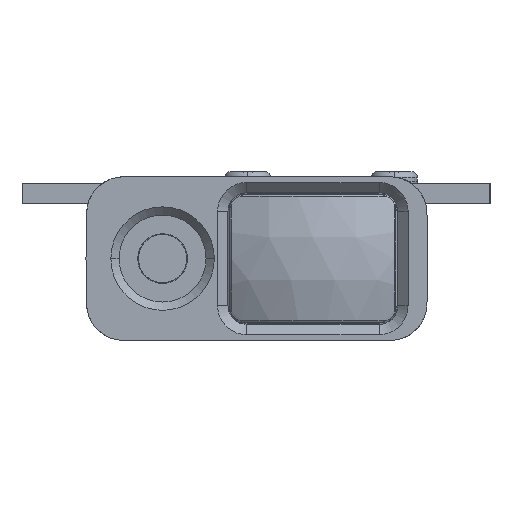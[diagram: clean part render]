
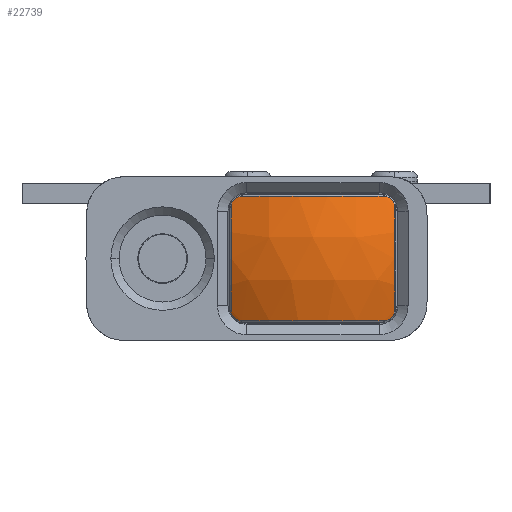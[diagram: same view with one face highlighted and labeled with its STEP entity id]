
A CAD part, left-side view. The second image highlights one B-rep face of the part: STEP entity #22739.
In plain terms, the highlighted spherical face has radius 14.385 mm.
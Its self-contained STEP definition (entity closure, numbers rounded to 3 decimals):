
#22206=CARTESIAN_POINT('',(14.078,-4.868,
-36.396));
#22207=CARTESIAN_POINT('',(14.134,-4.868,
-36.371));
#22208=CARTESIAN_POINT('',(14.244,-4.856,
-36.325));
#22209=CARTESIAN_POINT('',(14.398,-4.807,
-36.271));
#22210=CARTESIAN_POINT('',(14.538,-4.73,
-36.232));
#22211=CARTESIAN_POINT('',(14.66,-4.629,
-36.21));
#22212=CARTESIAN_POINT('',(14.759,-4.506,
-36.206));
#22213=CARTESIAN_POINT('',(14.833,-4.367,
-36.218));
#22214=CARTESIAN_POINT('',(14.878,-4.216,
-36.248));
#22215=CARTESIAN_POINT('',(14.889,-4.111,
-36.278));
#22216=CARTESIAN_POINT('',(14.889,-4.056,
-36.296));
#22218=CARTESIAN_POINT('',(14.889,0.,
-24.063));
#22219=DIRECTION('',(1.,0.,0.));
#22220=DIRECTION('',(0.,-0.315,-0.949));
#22221=AXIS2_PLACEMENT_3D('',#22218,#22219,#22220);
#22223=CARTESIAN_POINT('',(14.889,4.056,
-36.296));
#22224=CARTESIAN_POINT('',(14.889,4.111,
-36.278));
#22225=CARTESIAN_POINT('',(14.878,4.217,
-36.248));
#22226=CARTESIAN_POINT('',(14.832,4.369,
-36.218));
#22227=CARTESIAN_POINT('',(14.757,4.508,
-36.206));
#22228=CARTESIAN_POINT('',(14.658,4.63,
-36.21));
#22229=CARTESIAN_POINT('',(14.537,4.731,
-36.233));
#22230=CARTESIAN_POINT('',(14.397,4.808,
-36.271));
#22231=CARTESIAN_POINT('',(14.244,4.856,
-36.325));
#22232=CARTESIAN_POINT('',(14.134,4.868,
-36.371));
#22233=CARTESIAN_POINT('',(14.078,4.868,
-36.396));
#22235=CARTESIAN_POINT('',(8.5,4.868,-24.063));
#22236=DIRECTION('',(0.,1.,0.));
#22237=DIRECTION('',(0.412,0.,-0.911));
#22238=AXIS2_PLACEMENT_3D('',#22235,#22236,#22237);
#22240=CARTESIAN_POINT('',(2.922,4.868,
-36.396));
#22241=CARTESIAN_POINT('',(2.866,4.868,
-36.371));
#22242=CARTESIAN_POINT('',(2.756,4.856,
-36.325));
#22243=CARTESIAN_POINT('',(2.602,4.807,
-36.271));
#22244=CARTESIAN_POINT('',(2.462,4.73,
-36.232));
#22245=CARTESIAN_POINT('',(2.34,4.629,
-36.21));
#22246=CARTESIAN_POINT('',(2.241,4.506,
-36.206));
#22247=CARTESIAN_POINT('',(2.167,4.367,
-36.218));
#22248=CARTESIAN_POINT('',(2.122,4.216,
-36.248));
#22249=CARTESIAN_POINT('',(2.111,4.111,
-36.278));
#22250=CARTESIAN_POINT('',(2.111,4.056,
-36.296));
#22252=CARTESIAN_POINT('',(2.111,0.,
-24.063));
#22253=DIRECTION('',(-1.,0.,0.));
#22254=DIRECTION('',(0.,0.315,-0.949));
#22255=AXIS2_PLACEMENT_3D('',#22252,#22253,#22254);
#22257=CARTESIAN_POINT('',(2.111,-4.056,
-36.296));
#22258=CARTESIAN_POINT('',(2.111,-4.111,
-36.278));
#22259=CARTESIAN_POINT('',(2.122,-4.217,
-36.248));
#22260=CARTESIAN_POINT('',(2.168,-4.369,
-36.218));
#22261=CARTESIAN_POINT('',(2.243,-4.508,
-36.206));
#22262=CARTESIAN_POINT('',(2.342,-4.63,
-36.21));
#22263=CARTESIAN_POINT('',(2.463,-4.731,
-36.233));
#22264=CARTESIAN_POINT('',(2.603,-4.808,
-36.271));
#22265=CARTESIAN_POINT('',(2.756,-4.856,
-36.325));
#22266=CARTESIAN_POINT('',(2.866,-4.868,
-36.371));
#22267=CARTESIAN_POINT('',(2.922,-4.868,
-36.396));
#22269=CARTESIAN_POINT('',(8.5,-4.868,-24.063));
#22270=DIRECTION('',(0.,-1.,0.));
#22271=DIRECTION('',(-0.412,0.,-0.911));
#22272=AXIS2_PLACEMENT_3D('',#22269,#22270,#22271);
#22292=CARTESIAN_POINT('',(14.889,-4.056,
-36.296));
#22293=VERTEX_POINT('',#22292);
#22294=VERTEX_POINT('',#22206);
#22297=CARTESIAN_POINT('',(14.889,4.056,
-36.296));
#22298=VERTEX_POINT('',#22297);
#22300=CARTESIAN_POINT('',(14.078,4.868,
-36.396));
#22301=VERTEX_POINT('',#22300);
#22304=CARTESIAN_POINT('',(2.922,4.868,
-36.396));
#22305=VERTEX_POINT('',#22304);
#22307=CARTESIAN_POINT('',(2.111,4.056,
-36.296));
#22308=VERTEX_POINT('',#22307);
#22311=CARTESIAN_POINT('',(2.111,-4.056,
-36.296));
#22312=VERTEX_POINT('',#22311);
#22314=CARTESIAN_POINT('',(2.922,-4.868,
-36.396));
#22315=VERTEX_POINT('',#22314);
#22724=CARTESIAN_POINT('',(8.5,0.,-24.063));
#22725=DIRECTION('',(0.,-1.,0.));
#22726=DIRECTION('',(-1.,0.,0.));
#22727=AXIS2_PLACEMENT_3D('',#22724,#22725,#22726);
#22728=SPHERICAL_SURFACE('',#22727,14.385);
#22729=ORIENTED_EDGE('',*,*,#22403,.T.);
#22730=ORIENTED_EDGE('',*,*,#22419,.T.);
#22731=ORIENTED_EDGE('',*,*,#22500,.T.);
#22732=ORIENTED_EDGE('',*,*,#22515,.T.);
#22733=ORIENTED_EDGE('',*,*,#22596,.T.);
#22734=ORIENTED_EDGE('',*,*,#22611,.T.);
#22735=ORIENTED_EDGE('',*,*,#22692,.T.);
#22736=ORIENTED_EDGE('',*,*,#22706,.T.);
#22737=EDGE_LOOP('',(#22729,#22730,#22731,#22732,#22733,#22734,#22735,#22736));
#22738=FACE_OUTER_BOUND('',#22737,.F.);
#22217=B_SPLINE_CURVE_WITH_KNOTS('',3,(#22206,#22207,#22208,#22209,#22210,
#22211,#22212,#22213,#22214,#22215,#22216),.UNSPECIFIED.,.F.,.F.,(4,1,1,1,1,1,1,
1,4),(0.,0.125,0.25,0.375,0.5,0.625,0.75,0.875,1.),
.UNSPECIFIED.);
#22222=CIRCLE('',#22221,12.888);
#22234=B_SPLINE_CURVE_WITH_KNOTS('',3,(#22223,#22224,#22225,#22226,#22227,
#22228,#22229,#22230,#22231,#22232,#22233),.UNSPECIFIED.,.F.,.F.,(4,1,1,1,1,1,1,
1,4),(0.,0.125,0.25,0.375,0.5,0.625,0.75,0.875,1.),
.UNSPECIFIED.);
#22239=CIRCLE('',#22238,13.536);
#22251=B_SPLINE_CURVE_WITH_KNOTS('',3,(#22240,#22241,#22242,#22243,#22244,
#22245,#22246,#22247,#22248,#22249,#22250),.UNSPECIFIED.,.F.,.F.,(4,1,1,1,1,1,1,
1,4),(0.,0.125,0.25,0.375,0.5,0.625,0.75,0.875,1.),
.UNSPECIFIED.);
#22256=CIRCLE('',#22255,12.888);
#22268=B_SPLINE_CURVE_WITH_KNOTS('',3,(#22257,#22258,#22259,#22260,#22261,
#22262,#22263,#22264,#22265,#22266,#22267),.UNSPECIFIED.,.F.,.F.,(4,1,1,1,1,1,1,
1,4),(0.,0.125,0.25,0.375,0.5,0.625,0.75,0.875,1.),
.UNSPECIFIED.);
#22273=CIRCLE('',#22272,13.536);
#22403=EDGE_CURVE('',#22294,#22293,#22217,.T.);
#22419=EDGE_CURVE('',#22293,#22298,#22222,.T.);
#22500=EDGE_CURVE('',#22298,#22301,#22234,.T.);
#22515=EDGE_CURVE('',#22301,#22305,#22239,.T.);
#22596=EDGE_CURVE('',#22305,#22308,#22251,.T.);
#22611=EDGE_CURVE('',#22308,#22312,#22256,.T.);
#22692=EDGE_CURVE('',#22312,#22315,#22268,.T.);
#22706=EDGE_CURVE('',#22315,#22294,#22273,.T.);
#22739=ADVANCED_FACE('',(#22738),#22728,.T.);
